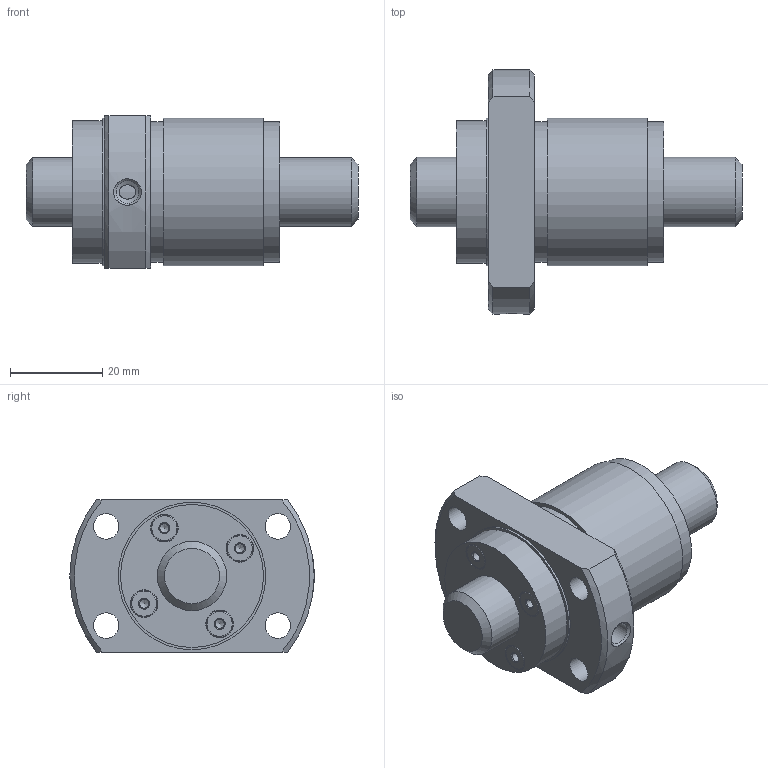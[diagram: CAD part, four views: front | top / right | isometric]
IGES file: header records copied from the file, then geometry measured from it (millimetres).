
Start section: Data from Parasolid IGES Translator 26.0.171, Copyright(c) 2006 Siemens PLM Software. All Rights Reserved.
Global section: file name: WGF1520-3WWG1+72LC3_N0_13_0_0.igs; native system: By Siemens PLM Incorporated; preprocessor: XPlus GENERIC/IGES 26.0.171; author: Noname; organization: Noname; date: 20250116.062513; units: millimetre
Bounding box: 72 x 53 x 33 mm (x, y, z)
Surface area: 15344 mm2 (no closed solid volume)
Topology: 0 solids, 0 shells, 65 faces, 262 edges, 206 vertices
Faces by surface type: revolution 46, extrusion 19
